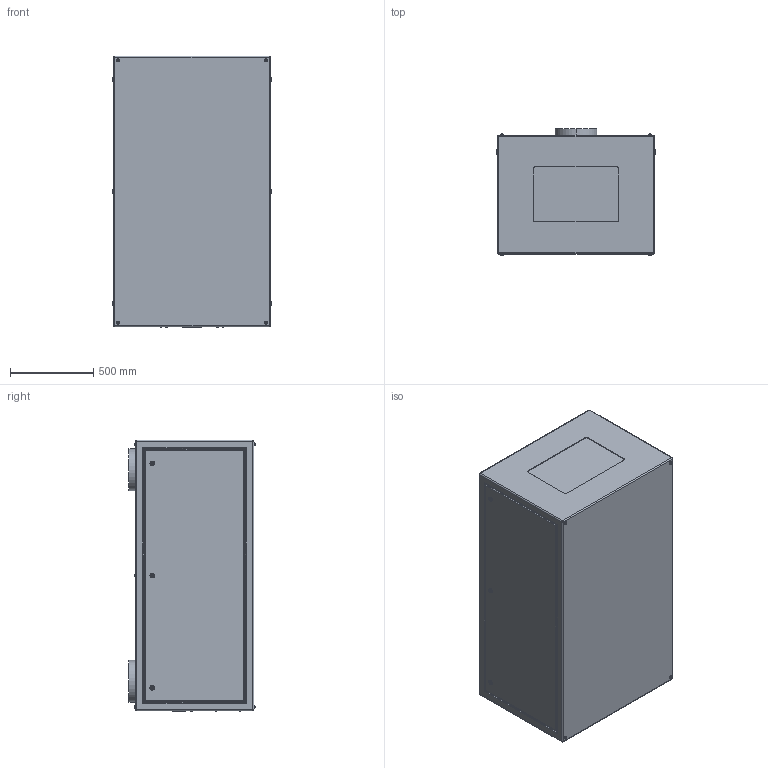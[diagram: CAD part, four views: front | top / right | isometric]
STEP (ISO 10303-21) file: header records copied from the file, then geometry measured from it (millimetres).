
FILE_DESCRIPTION (( 'STEP AP214' ), '1' );
FILE_NAME ('Tacit 56.522.L R08.STEP', '2022-09-11T22:41:32', ( '' ), ( '' ), 'SwSTEP 2.0', 'SolidWorks 2020', '' );
FILE_SCHEMA (( 'AUTOMOTIVE_DESIGN' ));
Length unit declared in the file: inch
Products named in the file (1): Tacit 56.522.L R08
Bounding box: 952.5 x 756.56 x 1630.68 mm (x, y, z)
Volume: 1084791143.8 mm3; surface area: 7101701.6 mm2
Topology: 1 solids, 7 shells, 401 faces, 892 edges, 560 vertices
Faces by surface type: plane 177, cylinder 168, torus 48, sphere 8
Entity records: 15011 total; most frequent: CARTESIAN_POINT 2382, DIRECTION 1972, ORIENTED_EDGE 1768, EDGE_CURVE 884, AXIS2_PLACEMENT_3D 782, VERTEX_POINT 560, EDGE_LOOP 464, VECTOR 408
